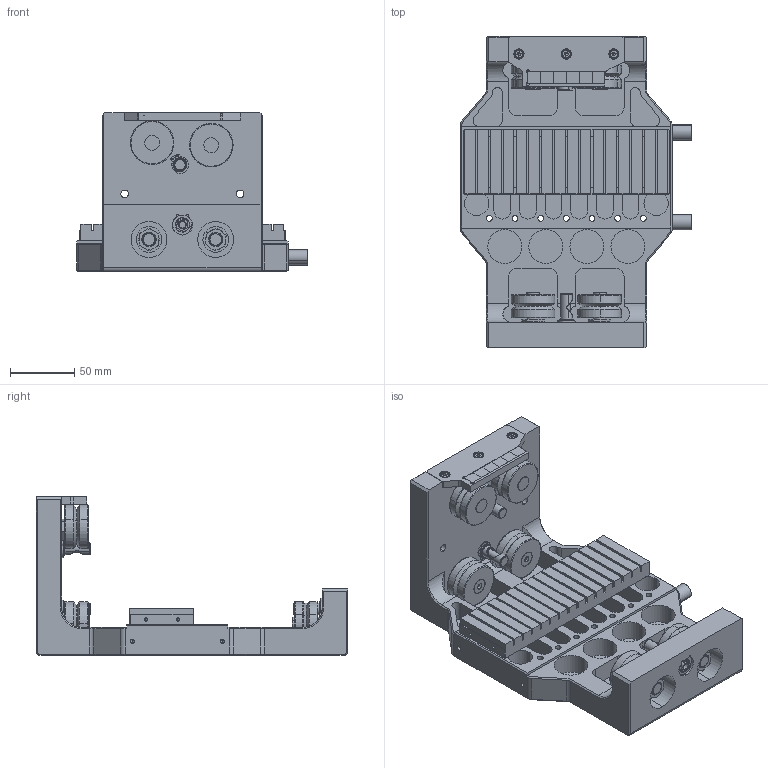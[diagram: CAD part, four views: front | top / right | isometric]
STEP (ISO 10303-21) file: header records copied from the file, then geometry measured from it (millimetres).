
FILE_DESCRIPTION (( 'STEP AP214' ), '1' );
FILE_NAME ('FTS-MT.SUB1104.STEP', '2025-02-21T05:16:32', ( '' ), ( '' ), 'SwSTEP 2.0', 'SolidWorks 2021', '' );
FILE_SCHEMA (( 'AUTOMOTIVE_DESIGN' ));
Length unit declared in the file: millimetre
Products named in the file (21): SVR-34DRC+淏陑淕极幗謫+SAIBO; NBBKS12-15-M4+橡胶.热粘接减震材料.螺栓热粘接型+MISUMI; FTS-MT.SUB013.0001; D12xd10x1+硅胶密封圈+国产; L25xD6+海绵棒+国产; SVR-34FC+淏陑腹雄幗謫+SAIBO; DDL160-50-M+160mm×50mm磁板+上海会通; TAS32-11+孔用弹性挡圈SUS304.C型+怡合达; S-DHYP001+磁钢-35SH-10mm×9.5mm×2mm+北京安泰; M4x25-内六角圆柱头-全牙-12.9级-碳钢-镀镍+螺钉+国产; FTS-MT.SUB013.0002; TAS02-11+轴用挡圈.SUS304.C型+怡合达; FTS-MT.SUB0702; SVR-34DRDE+偏心整体滚轮+SAIBO; FTS-MT.SUB011.0001; FTS-MT.SUB007.0002; J-YWR-D6-L15+压缩弹簧.外径基准型.允许位移量Lx60%+怡合达; GB120 4x12+内螺纹圆柱定位销+国产; M4x8-内六角圆柱头-全牙-8.8级-不锈钢+螺钉+国产; FTS-MT.SUB013.0003; FTS-MT.SUB1104
Assembly tree (61 placements, depth 3):
  FTS-MT.SUB1104
    FTS-MT.SUB011.0001
    FTS-MT.SUB0702
      FTS-MT.SUB007.0002
      S-DHYP001+磁钢-35SH-10mm×9.5mm×2mm+北京安泰  x6
    SVR-34DRC+淏陑淕极幗謫+SAIBO  x2
    SVR-34DRDE+偏心整体滚轮+SAIBO  x2
    SVR-34FC+淏陑腹雄幗謫+SAIBO  x2
    NBBKS12-15-M4+橡胶.热粘接减震材料.螺栓热粘接型+MISUMI  x2
    M4x8-内六角圆柱头-全牙-8.8级-不锈钢+螺钉+国产  x3
    M4x25-内六角圆柱头-全牙-12.9级-碳钢-镀镍+螺钉+国产  x14
    GB120 4x12+内螺纹圆柱定位销+国产  x2
    DDL160-50-M+160mm×50mm磁板+上海会通
    FTS-MT.SUB013.0002  x3
    FTS-MT.SUB013.0003  x3
    J-YWR-D6-L15+压缩弹簧.外径基准型.允许位移量Lx60%+怡合达  x3
    TAS02-11+轴用挡圈.SUS304.C型+怡合达  x3
    D12xd10x1+硅胶密封圈+国产  x3
    L25xD6+海绵棒+国产  x3
    FTS-MT.SUB013.0001  x3
    TAS32-11+孔用弹性挡圈SUS304.C型+怡合达  x3
Bounding box: 180 x 243.1 x 123.9 mm (x, y, z)
Volume: 1012897.8 mm3; surface area: 282847.5 mm2
Topology: 68 solids, 68 shells, 2281 faces, 5383 edges, 3300 vertices
Faces by surface type: plane 897, cylinder 723, cone 460, bspline 107, torus 94
Entity records: 43933 total; most frequent: CARTESIAN_POINT 8667, DIRECTION 6505, ORIENTED_EDGE 5880, EDGE_CURVE 2940, AXIS2_PLACEMENT_3D 2493, VERTEX_POINT 1871, VECTOR 1519, LINE 1519
